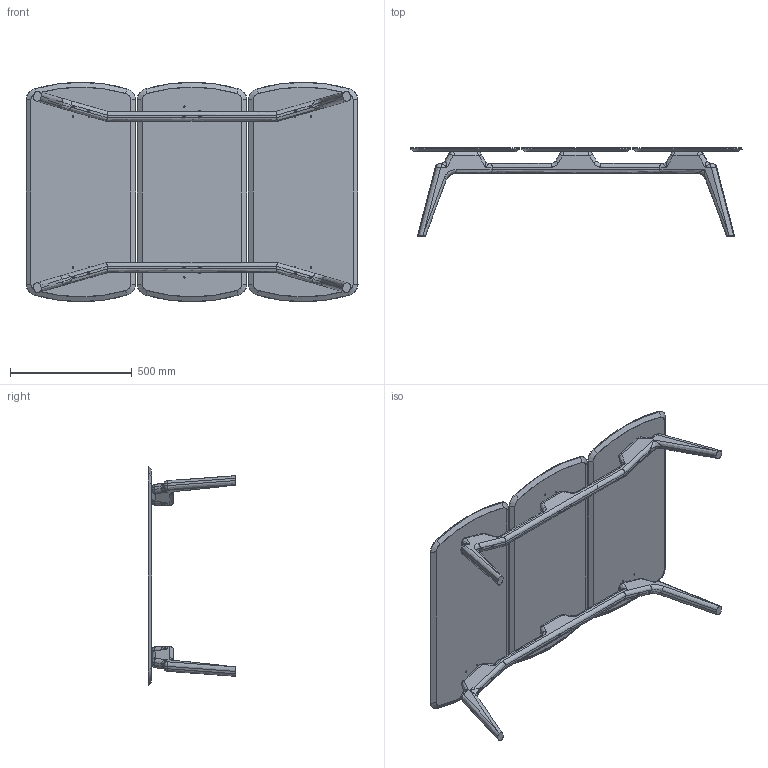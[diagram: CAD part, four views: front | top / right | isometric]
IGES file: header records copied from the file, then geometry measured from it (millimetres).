
Start section: SolidWorks IGES file using analytic representation for surfaces
Global section: file name: N:\OT\OFICINA TECNICA\PROYECTOS\EN DESARROLLO\MESA_MIXTA\3D SOLIDWORKS\MESA_MIXTA_L_TRIO.IGS; native system: SolidWorks 2016; preprocessor: SolidWorks 2016; author: Usuario; date: 190802.114547; units: millimetre
Bounding box: 1362 x 360 x 900 mm (x, y, z)
Surface area: 3015476.4 mm2 (no closed solid volume)
Topology: 0 solids, 0 shells, 450 faces, 6456 edges, 6436 vertices
Faces by surface type: revolution 252, bspline 198
